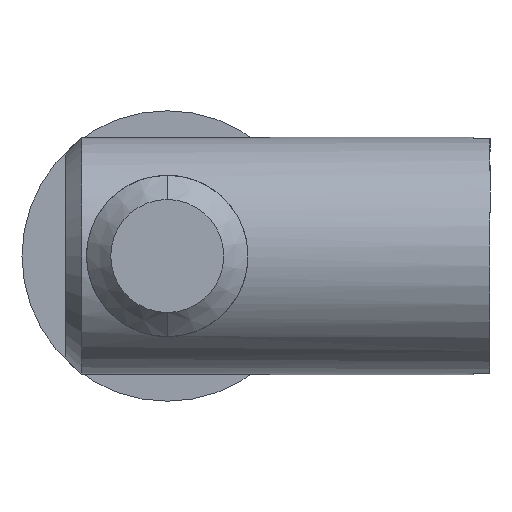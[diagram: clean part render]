
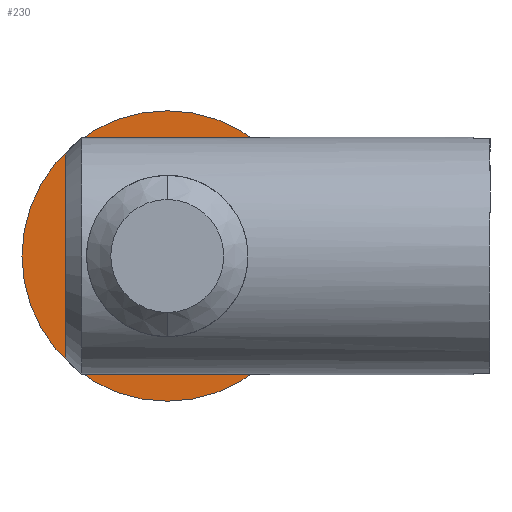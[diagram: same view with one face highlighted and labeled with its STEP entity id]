
A CAD part, front view. The second image highlights one B-rep face of the part: STEP entity #230.
In plain terms, the highlighted planar face has unit normal (0, -1, 0) as drawn and (1, 0, 0) by its records, which use the part's own axes.
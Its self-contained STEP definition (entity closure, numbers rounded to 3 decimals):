
#5 = PLANE ( 'NONE',  #609 ) ;
#23 = AXIS2_PLACEMENT_3D ( 'NONE', #59, #1349, #234 ) ;
#59 = CARTESIAN_POINT ( 'NONE',  ( -20., 0., 0. ) ) ;
#186 = DIRECTION ( 'NONE',  ( 0., 0., 1. ) ) ;
#224 = CIRCLE ( 'NONE', #23, 9. ) ;
#230 = ADVANCED_FACE ( 'NONE', ( #1317, #1195 ), #5, .F. ) ;
#234 = DIRECTION ( 'NONE',  ( 0., 0., 1. ) ) ;
#323 = DIRECTION ( 'NONE',  ( -1., 0., 0. ) ) ;
#336 = EDGE_CURVE ( 'NONE', #2105, #883, #959, .T. ) ;
#467 = CIRCLE ( 'NONE', #1656, 9. ) ;
#523 = CARTESIAN_POINT ( 'NONE',  ( -20., 0., -9. ) ) ;
#609 = AXIS2_PLACEMENT_3D ( 'NONE', #2230, #1865, #186 ) ;
#626 = CARTESIAN_POINT ( 'NONE',  ( -20., 0., 0. ) ) ;
#750 = EDGE_LOOP ( 'NONE', ( #873, #1604 ) ) ;
#795 = DIRECTION ( 'NONE',  ( -1., 0., 0. ) ) ;
#816 = DIRECTION ( 'NONE',  ( 0., 0., 1. ) ) ;
#873 = ORIENTED_EDGE ( 'NONE', *, *, #336, .T. ) ;
#883 = VERTEX_POINT ( 'NONE', #1070 ) ;
#959 = CIRCLE ( 'NONE', #988, 4.85 ) ;
#988 = AXIS2_PLACEMENT_3D ( 'NONE', #626, #1944, #816 ) ;
#1070 = CARTESIAN_POINT ( 'NONE',  ( -20., 0., 4.85 ) ) ;
#1181 = ORIENTED_EDGE ( 'NONE', *, *, #2331, .F. ) ;
#1195 = FACE_BOUND ( 'NONE', #750, .T. ) ;
#1317 = FACE_OUTER_BOUND ( 'NONE', #1750, .T. ) ;
#1349 = DIRECTION ( 'NONE',  ( -1., 0., 0. ) ) ;
#1448 = CARTESIAN_POINT ( 'NONE',  ( -20., 0., 0. ) ) ;
#1604 = ORIENTED_EDGE ( 'NONE', *, *, #2288, .T. ) ;
#1626 = DIRECTION ( 'NONE',  ( 0., 0., 1. ) ) ;
#1656 = AXIS2_PLACEMENT_3D ( 'NONE', #1448, #323, #1626 ) ;
#1718 = VERTEX_POINT ( 'NONE', #2338 ) ;
#1750 = EDGE_LOOP ( 'NONE', ( #1181, #1832 ) ) ;
#1779 = CIRCLE ( 'NONE', #1949, 4.85 ) ;
#1832 = ORIENTED_EDGE ( 'NONE', *, *, #2214, .F. ) ;
#1865 = DIRECTION ( 'NONE',  ( -1., 0., 0. ) ) ;
#1918 = CARTESIAN_POINT ( 'NONE',  ( -20., 0., 0. ) ) ;
#1944 = DIRECTION ( 'NONE',  ( -1., 0., 0. ) ) ;
#1949 = AXIS2_PLACEMENT_3D ( 'NONE', #1918, #795, #2095 ) ;
#2095 = DIRECTION ( 'NONE',  ( 0., 0., 1. ) ) ;
#2105 = VERTEX_POINT ( 'NONE', #2283 ) ;
#2214 = EDGE_CURVE ( 'NONE', #1718, #2234, #467, .T. ) ;
#2230 = CARTESIAN_POINT ( 'NONE',  ( -20., 0., 0. ) ) ;
#2234 = VERTEX_POINT ( 'NONE', #523 ) ;
#2283 = CARTESIAN_POINT ( 'NONE',  ( -20., 0., -4.85 ) ) ;
#2288 = EDGE_CURVE ( 'NONE', #883, #2105, #1779, .T. ) ;
#2331 = EDGE_CURVE ( 'NONE', #2234, #1718, #224, .T. ) ;
#2338 = CARTESIAN_POINT ( 'NONE',  ( -20., 0., 9. ) ) ;
